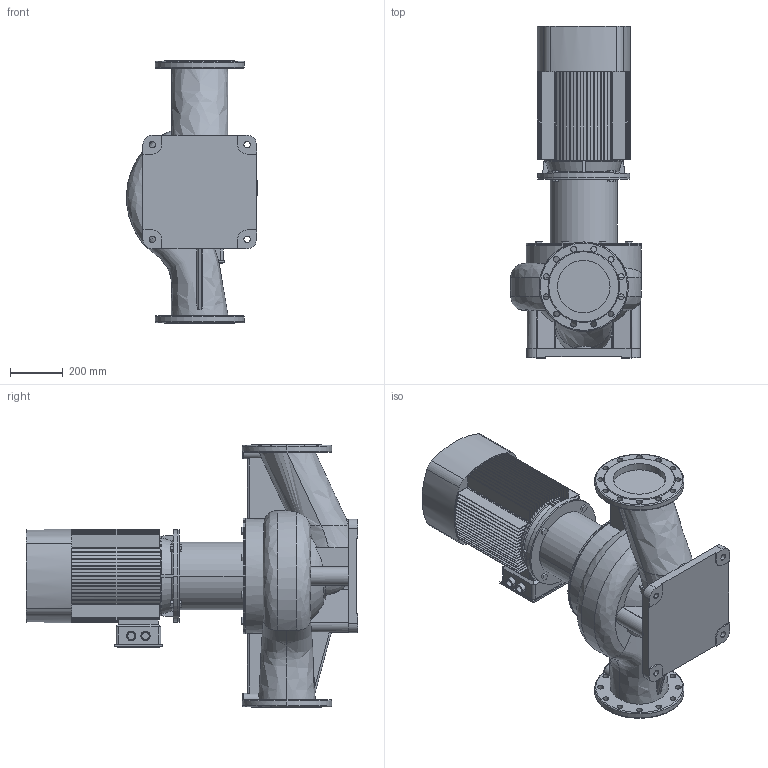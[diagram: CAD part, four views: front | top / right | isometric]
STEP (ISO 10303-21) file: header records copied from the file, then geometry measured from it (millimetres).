
FILE_DESCRIPTION (( 'STEP AP203' ), '1' );
FILE_NAME ('TD200-16_4.STEP', '2022-05-02T17:35:43', ( '' ), ( '' ), 'SwSTEP 2.0', 'SolidWorks 2019', '' );
FILE_SCHEMA (( 'CONFIG_CONTROL_DESIGN' ));
Length unit declared in the file: millimetre
Products named in the file (4): Fon_200_TD200-16_4; Pr_ch 200_TD200-16_4; ED_B5_YE2-180M-4 (18.5); TD200-16_4
Assembly tree (3 placements, depth 2):
  TD200-16_4
    Pr_ch 200_TD200-16_4
    Fon_200_TD200-16_4
    ED_B5_YE2-180M-4 (18.5)
Bounding box: 498.4 x 1262 x 1000 mm (x, y, z)
Volume: 137246598.4 mm3; surface area: 5168806.7 mm2
Topology: 5 solids, 7 shells, 756 faces, 2086 edges, 1383 vertices
Faces by surface type: plane 501, cylinder 184, torus 32, bspline 22, cone 17
Entity records: 33411 total; most frequent: CARTESIAN_POINT 13256, ORIENTED_EDGE 4172, DIRECTION 4121, EDGE_CURVE 2086, AXIS2_PLACEMENT_3D 1443, VERTEX_POINT 1383, LINE 1235, VECTOR 1235
